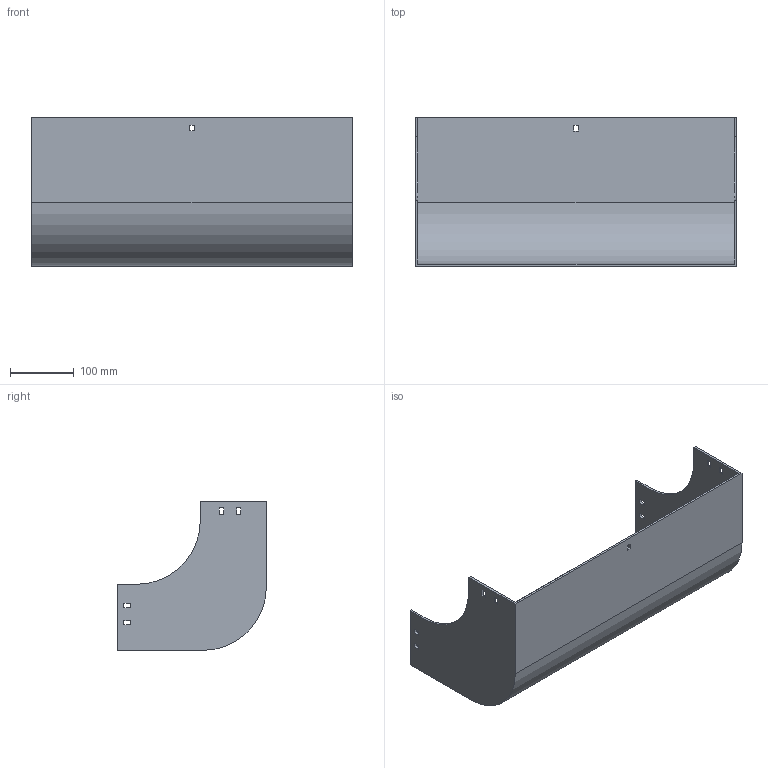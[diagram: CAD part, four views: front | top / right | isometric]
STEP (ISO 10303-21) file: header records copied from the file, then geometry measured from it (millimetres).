
FILE_DESCRIPTION (( 'STEP AP214' ), '1' );
FILE_NAME ('30F1D500.step', '2025-02-21T13:01:18', ( '' ), ( '' ), 'SwSTEP 2.0', 'SolidWorks 2023', '' );
FILE_SCHEMA (( 'AUTOMOTIVE_DESIGN' ));
Length unit declared in the file: millimetre
Products named in the file (1): 30F1D500
Bounding box: 504 x 234 x 234 mm (x, y, z)
Volume: 997266.8 mm3; surface area: 577509.6 mm2
Topology: 1 solids, 1 shells, 58 faces, 168 edges, 112 vertices
Faces by surface type: plane 54, cylinder 4
Entity records: 1943 total; most frequent: CARTESIAN_POINT 339, ORIENTED_EDGE 336, DIRECTION 294, EDGE_CURVE 168, LINE 160, VECTOR 160, VERTEX_POINT 112, EDGE_LOOP 78
